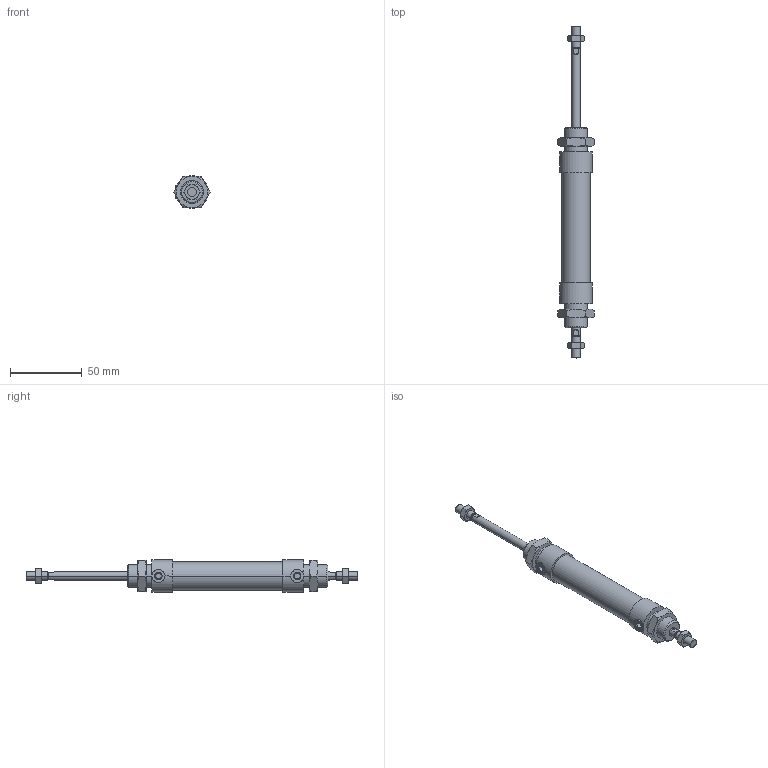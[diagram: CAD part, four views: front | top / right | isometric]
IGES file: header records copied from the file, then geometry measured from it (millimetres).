
Global section: file name: No Iges File Name specified; native system: AutoDesk Inventor R10; preprocessor: AutoDesk Inventor Iges Exporter R10; author: No Author specified; organization: No Organization specified; date: 20060105.143331; units: millimetre
Bounding box: 25.4 x 232 x 23 mm (x, y, z)
Volume: 48966.5 mm3; surface area: 19769.1 mm2
Topology: 6 solids, 6 shells, 184 faces, 394 edges, 230 vertices
Faces by surface type: cone 68, plane 58, cylinder 24, bspline 20, revolution 14
